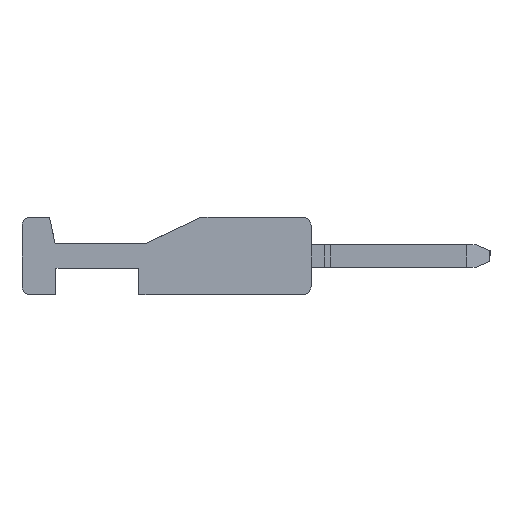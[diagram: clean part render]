
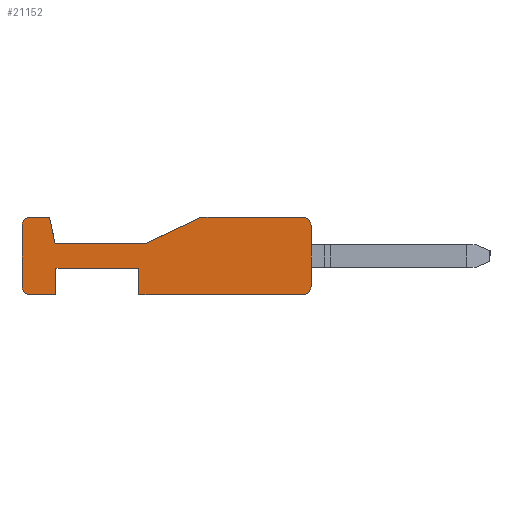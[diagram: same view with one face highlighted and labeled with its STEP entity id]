
A CAD part, left-side view. The second image highlights one B-rep face of the part: STEP entity #21152.
In plain terms, the highlighted planar face has unit normal (-1, 0, 0).
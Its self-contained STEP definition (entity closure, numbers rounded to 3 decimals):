
#687 = VERTEX_POINT ( 'NONE', #17512 ) ;
#1267 = CARTESIAN_POINT ( 'NONE',  ( -0.35, 0., 1.1 ) ) ;
#1273 = CARTESIAN_POINT ( 'NONE',  ( -0.35, 4., 1.4 ) ) ;
#1317 = LINE ( 'NONE', #24315, #21732 ) ;
#1393 = AXIS2_PLACEMENT_3D ( 'NONE', #4964, #21755, #3038 ) ;
#1670 = CARTESIAN_POINT ( 'NONE',  ( -0.35, 9.5, 1.4 ) ) ;
#1679 = DIRECTION ( 'NONE',  ( 0., 0., -1. ) ) ;
#2060 = VECTOR ( 'NONE', #25616, 1000. ) ;
#2147 = EDGE_CURVE ( 'NONE', #2943, #22323, #24595, .T. ) ;
#2780 = CARTESIAN_POINT ( 'NONE',  ( -0.35, 6.251, -0.45 ) ) ;
#2832 = CARTESIAN_POINT ( 'NONE',  ( -0.35, 10.5, -1.1 ) ) ;
#2943 = VERTEX_POINT ( 'NONE', #1267 ) ;
#2989 = VERTEX_POINT ( 'NONE', #26866 ) ;
#3038 = DIRECTION ( 'NONE',  ( 0., 0., -1. ) ) ;
#3077 = CARTESIAN_POINT ( 'NONE',  ( -0.35, 0.3, -1.1 ) ) ;
#3244 = DIRECTION ( 'NONE',  ( 0., 1., 0. ) ) ;
#3476 = LINE ( 'NONE', #1670, #3698 ) ;
#3698 = VECTOR ( 'NONE', #12141, 1000. ) ;
#3942 = EDGE_CURVE ( 'NONE', #2989, #7982, #15609, .T. ) ;
#4027 = LINE ( 'NONE', #25091, #18006 ) ;
#4302 = DIRECTION ( 'NONE',  ( 0., 1., 0. ) ) ;
#4423 = ORIENTED_EDGE ( 'NONE', *, *, #3942, .F. ) ;
#4465 = ORIENTED_EDGE ( 'NONE', *, *, #14080, .F. ) ;
#4568 = AXIS2_PLACEMENT_3D ( 'NONE', #5949, #20405, #10064 ) ;
#4964 = CARTESIAN_POINT ( 'NONE',  ( -0.35, 0.3, 1.1 ) ) ;
#5323 = AXIS2_PLACEMENT_3D ( 'NONE', #3077, #11601, #24528 ) ;
#5438 = CARTESIAN_POINT ( 'NONE',  ( -0.35, 10.5, 1.4 ) ) ;
#5493 = ORIENTED_EDGE ( 'NONE', *, *, #17667, .T. ) ;
#5654 = EDGE_CURVE ( 'NONE', #13170, #17391, #11187, .T. ) ;
#5949 = CARTESIAN_POINT ( 'NONE',  ( -0.35, 10.2, 1.1 ) ) ;
#6009 = VECTOR ( 'NONE', #26474, 1000. ) ;
#6118 = ORIENTED_EDGE ( 'NONE', *, *, #8043, .F. ) ;
#6184 = LINE ( 'NONE', #18572, #19766 ) ;
#6527 = EDGE_CURVE ( 'NONE', #20652, #20069, #13716, .T. ) ;
#6603 = VECTOR ( 'NONE', #21880, 1000. ) ;
#7146 = CARTESIAN_POINT ( 'NONE',  ( -0.35, 9.5, 1.4 ) ) ;
#7223 = VERTEX_POINT ( 'NONE', #8826 ) ;
#7250 = AXIS2_PLACEMENT_3D ( 'NONE', #25042, #26576, #24774 ) ;
#7483 = CARTESIAN_POINT ( 'NONE',  ( -0.35, 9.3, 0.45 ) ) ;
#7648 = CIRCLE ( 'NONE', #4568, 0.3 ) ;
#7982 = VERTEX_POINT ( 'NONE', #26336 ) ;
#8043 = EDGE_CURVE ( 'NONE', #22323, #7223, #10136, .T. ) ;
#8576 = ORIENTED_EDGE ( 'NONE', *, *, #23858, .F. ) ;
#8826 = CARTESIAN_POINT ( 'NONE',  ( -0.35, 0.3, -1.4 ) ) ;
#9084 = DIRECTION ( 'NONE',  ( 0., 1., 0. ) ) ;
#9572 = DIRECTION ( 'NONE',  ( 0., 1., 0. ) ) ;
#9744 = ORIENTED_EDGE ( 'NONE', *, *, #12842, .F. ) ;
#10064 = DIRECTION ( 'NONE',  ( 0., 0., 1. ) ) ;
#10136 = CIRCLE ( 'NONE', #5323, 0.3 ) ;
#10197 = CARTESIAN_POINT ( 'NONE',  ( -0.35, 9.265, -1.4 ) ) ;
#10344 = CARTESIAN_POINT ( 'NONE',  ( -0.35, 0., 1.4 ) ) ;
#10726 = CARTESIAN_POINT ( 'NONE',  ( -0.35, 0.3, 1.4 ) ) ;
#11187 = LINE ( 'NONE', #12852, #17964 ) ;
#11231 = ORIENTED_EDGE ( 'NONE', *, *, #20087, .F. ) ;
#11601 = DIRECTION ( 'NONE',  ( 1., 0., 0. ) ) ;
#12141 = DIRECTION ( 'NONE',  ( 0., -0.206, -0.979 ) ) ;
#12271 = ORIENTED_EDGE ( 'NONE', *, *, #12917, .F. ) ;
#12341 = CARTESIAN_POINT ( 'NONE',  ( -0.35, 0., 1.4 ) ) ;
#12842 = EDGE_CURVE ( 'NONE', #20652, #22522, #3476, .T. ) ;
#12852 = CARTESIAN_POINT ( 'NONE',  ( -0.35, 0., -0.45 ) ) ;
#12917 = EDGE_CURVE ( 'NONE', #687, #20069, #7648, .T. ) ;
#13170 = VERTEX_POINT ( 'NONE', #2780 ) ;
#13277 = CIRCLE ( 'NONE', #1393, 0.3 ) ;
#13501 = CARTESIAN_POINT ( 'NONE',  ( -0.35, 10.5, 1.4 ) ) ;
#13716 = LINE ( 'NONE', #5438, #26339 ) ;
#13858 = CARTESIAN_POINT ( 'NONE',  ( -0.35, 10.2, -1.4 ) ) ;
#13874 = VECTOR ( 'NONE', #14544, 1000. ) ;
#14080 = EDGE_CURVE ( 'NONE', #7223, #16065, #1317, .T. ) ;
#14163 = ORIENTED_EDGE ( 'NONE', *, *, #22793, .T. ) ;
#14315 = DIRECTION ( 'NONE',  ( 0., 0., -1. ) ) ;
#14346 = DIRECTION ( 'NONE',  ( 1., 0., 0. ) ) ;
#14496 = EDGE_CURVE ( 'NONE', #15221, #24564, #20436, .T. ) ;
#14544 = DIRECTION ( 'NONE',  ( 0., 0., -1. ) ) ;
#14618 = FACE_OUTER_BOUND ( 'NONE', #20383, .T. ) ;
#14890 = DIRECTION ( 'NONE',  ( 0., 1., 0. ) ) ;
#15015 = ORIENTED_EDGE ( 'NONE', *, *, #6527, .T. ) ;
#15221 = VERTEX_POINT ( 'NONE', #13858 ) ;
#15519 = ORIENTED_EDGE ( 'NONE', *, *, #20362, .F. ) ;
#15609 = LINE ( 'NONE', #1273, #6009 ) ;
#16065 = VERTEX_POINT ( 'NONE', #25048 ) ;
#16190 = VERTEX_POINT ( 'NONE', #10726 ) ;
#16381 = LINE ( 'NONE', #23108, #25962 ) ;
#16656 = LINE ( 'NONE', #17066, #2060 ) ;
#16946 = CARTESIAN_POINT ( 'NONE',  ( -0.35, 10.2, 1.4 ) ) ;
#17066 = CARTESIAN_POINT ( 'NONE',  ( -0.35, 9.265, 1.4 ) ) ;
#17119 = AXIS2_PLACEMENT_3D ( 'NONE', #10344, #14346, #1679 ) ;
#17391 = VERTEX_POINT ( 'NONE', #19440 ) ;
#17512 = CARTESIAN_POINT ( 'NONE',  ( -0.35, 10.5, 1.1 ) ) ;
#17667 = EDGE_CURVE ( 'NONE', #26390, #17391, #16656, .T. ) ;
#17744 = ORIENTED_EDGE ( 'NONE', *, *, #26701, .F. ) ;
#17871 = ORIENTED_EDGE ( 'NONE', *, *, #2147, .F. ) ;
#17964 = VECTOR ( 'NONE', #4302, 1000. ) ;
#18006 = VECTOR ( 'NONE', #9084, 1000. ) ;
#18572 = CARTESIAN_POINT ( 'NONE',  ( -0.35, 0., 1.4 ) ) ;
#19010 = PLANE ( 'NONE',  #17119 ) ;
#19151 = ORIENTED_EDGE ( 'NONE', *, *, #5654, .F. ) ;
#19440 = CARTESIAN_POINT ( 'NONE',  ( -0.35, 9.265, -0.45 ) ) ;
#19766 = VECTOR ( 'NONE', #26968, 1000. ) ;
#20069 = VERTEX_POINT ( 'NONE', #16946 ) ;
#20087 = EDGE_CURVE ( 'NONE', #26390, #15221, #25900, .T. ) ;
#20362 = EDGE_CURVE ( 'NONE', #7982, #16190, #6184, .T. ) ;
#20383 = EDGE_LOOP ( 'NONE', ( #5493, #19151, #20945, #4465, #6118, #17871, #17744, #15519, #4423, #14163, #9744, #15015, #12271, #8576, #24508, #11231 ) ) ;
#20405 = DIRECTION ( 'NONE',  ( 1., 0., 0. ) ) ;
#20436 = CIRCLE ( 'NONE', #7250, 0.3 ) ;
#20605 = VECTOR ( 'NONE', #14890, 1000. ) ;
#20652 = VERTEX_POINT ( 'NONE', #7146 ) ;
#20945 = ORIENTED_EDGE ( 'NONE', *, *, #21561, .T. ) ;
#21079 = CARTESIAN_POINT ( 'NONE',  ( -0.35, 10.5, -1.4 ) ) ;
#21152 = ADVANCED_FACE ( 'NONE', ( #14618 ), #19010, .F. ) ;
#21561 = EDGE_CURVE ( 'NONE', #13170, #16065, #16381, .T. ) ;
#21732 = VECTOR ( 'NONE', #9572, 1000. ) ;
#21755 = DIRECTION ( 'NONE',  ( 1., 0., 0. ) ) ;
#21880 = DIRECTION ( 'NONE',  ( 0., 0., 1. ) ) ;
#22323 = VERTEX_POINT ( 'NONE', #26519 ) ;
#22522 = VERTEX_POINT ( 'NONE', #7483 ) ;
#22793 = EDGE_CURVE ( 'NONE', #2989, #22522, #4027, .T. ) ;
#23108 = CARTESIAN_POINT ( 'NONE',  ( -0.35, 6.251, 1.4 ) ) ;
#23858 = EDGE_CURVE ( 'NONE', #24564, #687, #25615, .T. ) ;
#24315 = CARTESIAN_POINT ( 'NONE',  ( -0.35, 0., -1.4 ) ) ;
#24508 = ORIENTED_EDGE ( 'NONE', *, *, #14496, .F. ) ;
#24528 = DIRECTION ( 'NONE',  ( 0., 0., 1. ) ) ;
#24564 = VERTEX_POINT ( 'NONE', #2832 ) ;
#24595 = LINE ( 'NONE', #12341, #13874 ) ;
#24774 = DIRECTION ( 'NONE',  ( 0., 0., -1. ) ) ;
#25042 = CARTESIAN_POINT ( 'NONE',  ( -0.35, 10.2, -1.1 ) ) ;
#25048 = CARTESIAN_POINT ( 'NONE',  ( -0.35, 6.251, -1.4 ) ) ;
#25091 = CARTESIAN_POINT ( 'NONE',  ( -0.35, 9.3, 0.45 ) ) ;
#25615 = LINE ( 'NONE', #13501, #6603 ) ;
#25616 = DIRECTION ( 'NONE',  ( 0., 0., 1. ) ) ;
#25900 = LINE ( 'NONE', #21079, #20605 ) ;
#25962 = VECTOR ( 'NONE', #14315, 1000. ) ;
#26336 = CARTESIAN_POINT ( 'NONE',  ( -0.35, 4., 1.4 ) ) ;
#26339 = VECTOR ( 'NONE', #3244, 1000. ) ;
#26390 = VERTEX_POINT ( 'NONE', #10197 ) ;
#26474 = DIRECTION ( 'NONE',  ( 0., -0.903, 0.429 ) ) ;
#26519 = CARTESIAN_POINT ( 'NONE',  ( -0.35, 0., -1.1 ) ) ;
#26576 = DIRECTION ( 'NONE',  ( 1., 0., 0. ) ) ;
#26701 = EDGE_CURVE ( 'NONE', #16190, #2943, #13277, .T. ) ;
#26866 = CARTESIAN_POINT ( 'NONE',  ( -0.35, 6., 0.45 ) ) ;
#26968 = DIRECTION ( 'NONE',  ( 0., -1., 0. ) ) ;
